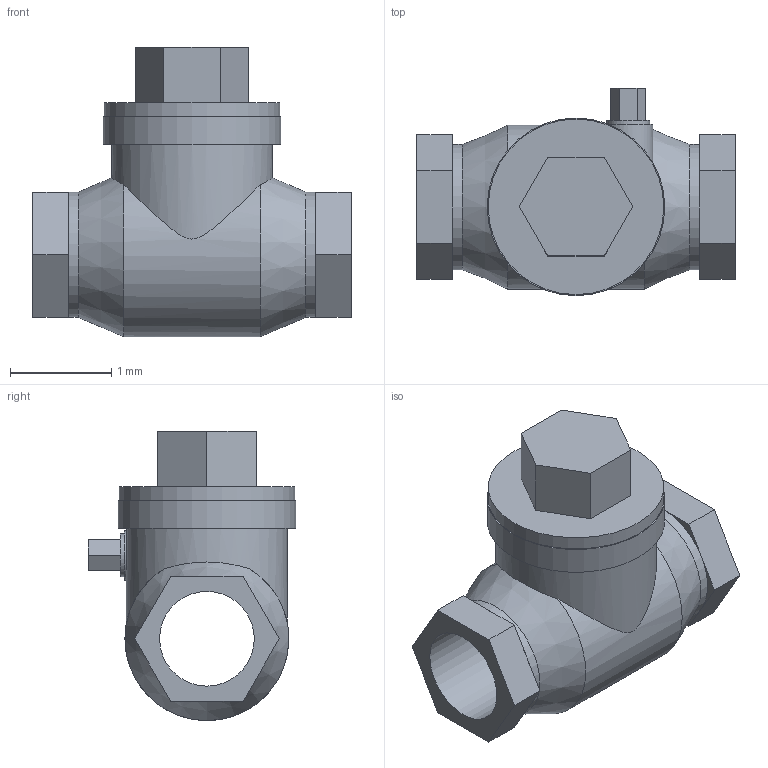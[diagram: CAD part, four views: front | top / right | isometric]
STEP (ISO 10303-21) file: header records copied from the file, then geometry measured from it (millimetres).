
FILE_DESCRIPTION(('Open CASCADE Model'),'2;1');
FILE_NAME('Open CASCADE Shape Model','2021-10-26T11:24:51',('Author'),( 'Open CASCADE'),'Open CASCADE STEP processor 7.3','Open CASCADE 7.3' ,'Unknown');
FILE_SCHEMA(('AUTOMOTIVE_DESIGN { 1 0 10303 214 1 1 1 1 }'));
Length unit declared in the file: millimetre
Products named in the file (1): Open CASCADE STEP translator 7.3 1
Bounding box: 3.15 x 2.05 x 2.86 mm (x, y, z)
Volume: 5.5 mm3; surface area: 33.8 mm2
Topology: 1 solids, 1 shells, 56 faces, 131 edges, 82 vertices
Faces by surface type: plane 45, cylinder 9, cone 2
Full cylindrical faces by diameter (mm): 0.425 x1, 0.49 x1, 0.936 x1, 1.238 x2, 1.59 x1, 1.735 x1, 1.755 x1
Entity records: 4020 total; most frequent: CARTESIAN_POINT 1395, DIRECTION 476, LINE 303, VECTOR 303, ORIENTED_EDGE 262, PCURVE 262, DEFINITIONAL_REPRESENTATION 262, EDGE_CURVE 131
